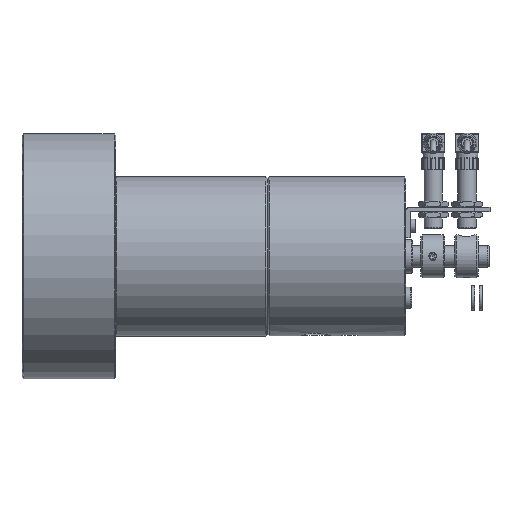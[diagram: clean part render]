
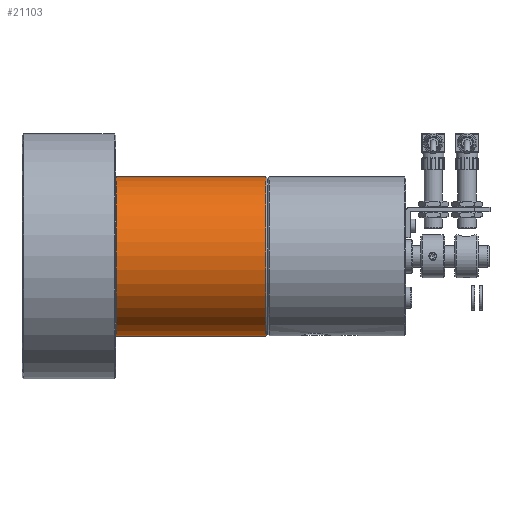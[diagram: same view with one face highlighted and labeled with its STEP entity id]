
A CAD part, front view. The second image highlights one B-rep face of the part: STEP entity #21103.
In plain terms, the highlighted cylindrical face has radius 51.95 mm (diameter 103.9 mm), a full revolution.
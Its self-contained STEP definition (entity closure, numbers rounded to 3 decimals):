
#4059=FACE_BOUND($,#6803,.T.);
#5134=FACE_OUTER_BOUND($,#6802,.T.);
#6802=EDGE_LOOP($,(#15458));
#6803=EDGE_LOOP($,(#15459));
#8617=CIRCLE($,#23032,51.95);
#8644=CIRCLE($,#23094,51.95);
#9906=VERTEX_POINT($,#33491);
#9942=VERTEX_POINT($,#33616);
#12023=EDGE_CURVE($,#9906,#9906,#8617,.T.);
#12063=EDGE_CURVE($,#9942,#9942,#8644,.T.);
#15458=ORIENTED_EDGE($,*,*,#12023,.F.);
#15459=ORIENTED_EDGE($,*,*,#12063,.F.);
#18885=CYLINDRICAL_SURFACE($,#23093,51.95);
#21103=ADVANCED_FACE($,(#5134,#4059),#18885,.T.);
#23032=AXIS2_PLACEMENT_3D($,#33492,#26772,#26773);
#23093=AXIS2_PLACEMENT_3D($,#33615,#26897,#26898);
#23094=AXIS2_PLACEMENT_3D($,#33617,#26899,#26900);
#26772=DIRECTION('center_axis',(1.,0.,0.));
#26773=DIRECTION('ref_axis',(0.,-1.,0.));
#26897=DIRECTION('center_axis',(1.,0.,0.));
#26898=DIRECTION('ref_axis',(0.,1.,0.));
#26899=DIRECTION('center_axis',(-1.,0.,0.));
#26900=DIRECTION('ref_axis',(0.,-1.,0.));
#33491=CARTESIAN_POINT('',(159.,51.95,0.));
#33492=CARTESIAN_POINT('Origin',(159.,0.,0.));
#33615=CARTESIAN_POINT('Origin',(110.5,0.,0.));
#33616=CARTESIAN_POINT('',(61.5,51.95,0.));
#33617=CARTESIAN_POINT('Origin',(61.5,0.,0.));
